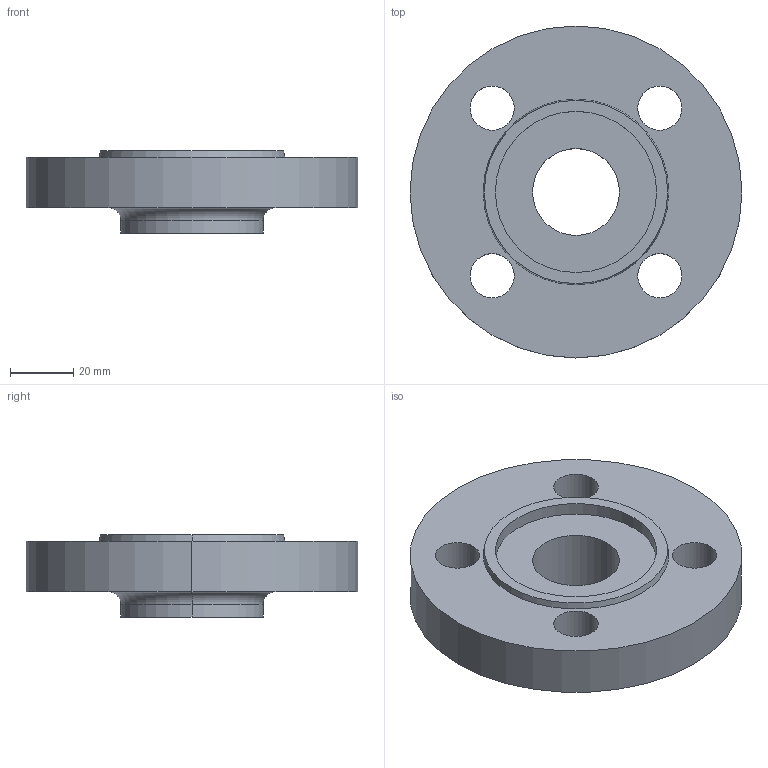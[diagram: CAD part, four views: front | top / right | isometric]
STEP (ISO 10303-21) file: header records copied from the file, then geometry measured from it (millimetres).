
FILE_DESCRIPTION (( 'STEP AP214' ), '1' );
FILE_NAME ('PN40 DN20 Type 12 - Type F Face.STEP', '2018-12-29T18:16:05', ( '' ), ( '' ), 'SwSTEP 2.0', 'SolidWorks 2019', '' );
FILE_SCHEMA (( 'AUTOMOTIVE_DESIGN' ));
Length unit declared in the file: millimetre
Products named in the file (1): PN40 DN20 Type 12 - Type F Face
Bounding box: 105 x 105 x 26 mm (x, y, z)
Volume: 126030.7 mm3; surface area: 26735.9 mm2
Topology: 1 solids, 1 shells, 25 faces, 58 edges, 38 vertices
Faces by surface type: cylinder 16, plane 5, torus 2, cone 2
Entity records: 790 total; most frequent: DIRECTION 150, CARTESIAN_POINT 122, ORIENTED_EDGE 116, AXIS2_PLACEMENT_3D 66, EDGE_CURVE 58, CIRCLE 40, EDGE_LOOP 38, VERTEX_POINT 38
